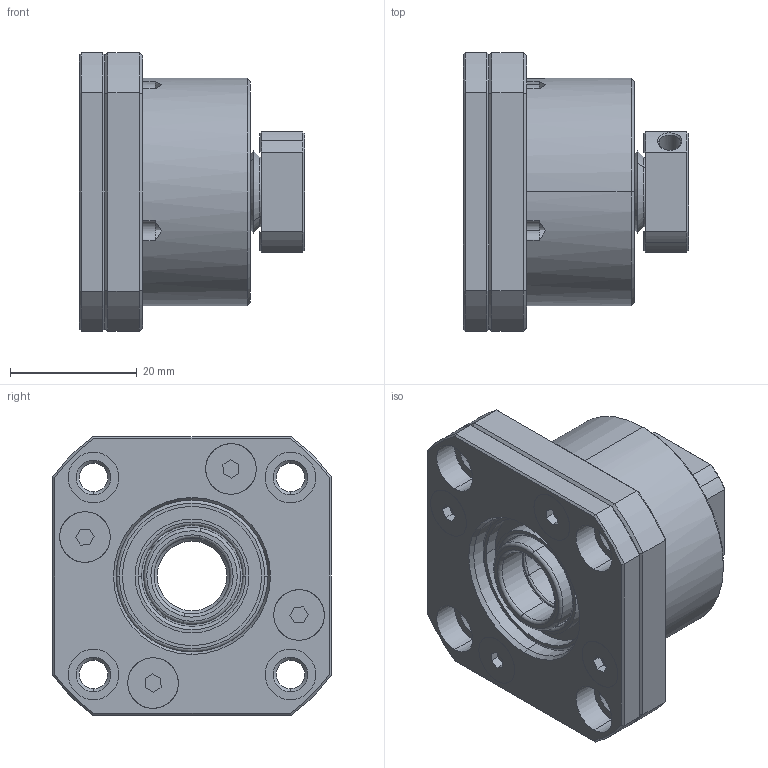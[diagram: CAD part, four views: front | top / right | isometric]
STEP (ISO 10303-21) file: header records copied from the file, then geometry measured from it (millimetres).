
FILE_DESCRIPTION (( 'STEP AP203' ), '1' );
FILE_NAME ('FK12²Õ¦XB.STEP', '2021-09-29T01:27:06', ( '' ), ( '' ), 'SwSTEP 2.0', 'SolidWorks 2018', '' );
FILE_SCHEMA (( 'CONFIG_CONTROL_DESIGN' ));
Length unit declared in the file: millimetre
Products named in the file (1): FK12組合B
Bounding box: 35.6 x 44 x 44 mm (x, y, z)
Surface area: 13514.5 mm2 (no closed solid volume)
Topology: 0 solids, 18 shells, 222 faces, 585 edges, 381 vertices
Faces by surface type: plane 83, cylinder 71, cone 48, torus 16, bspline 4
Entity records: 7469 total; most frequent: CARTESIAN_POINT 1823, DIRECTION 1228, ORIENTED_EDGE 1051, EDGE_CURVE 585, AXIS2_PLACEMENT_3D 498, VERTEX_POINT 381, CIRCLE 279, EDGE_LOOP 272
